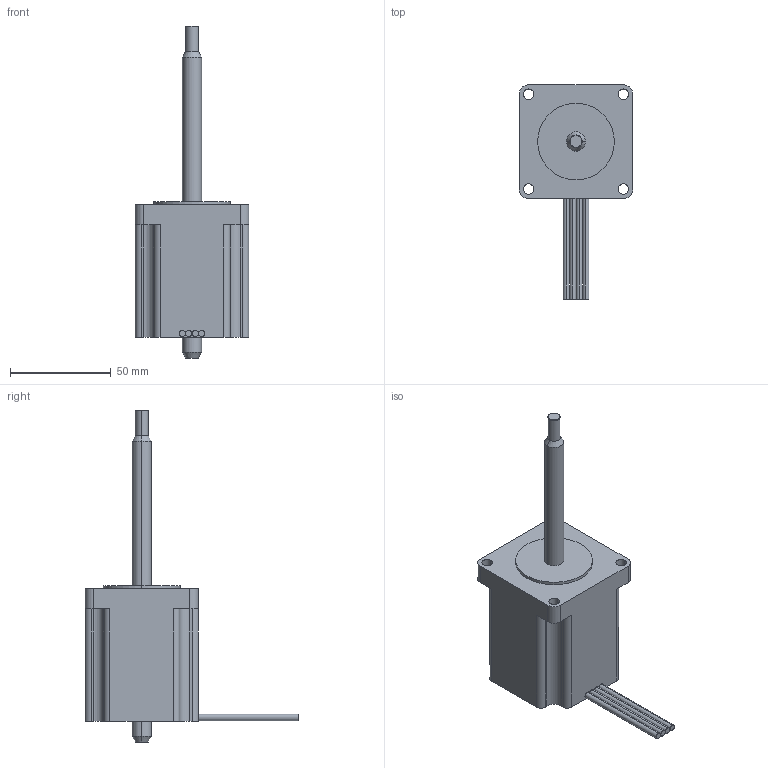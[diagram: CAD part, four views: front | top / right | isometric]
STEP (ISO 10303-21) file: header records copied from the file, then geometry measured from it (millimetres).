
FILE_DESCRIPTION (( 'STEP AP214' ), '1' );
FILE_NAME ('AMETEK-57L43-3.25-6.STEP', '2020-03-17T04:55:14', ( '' ), ( '' ), 'SwSTEP 2.0', 'SolidWorks 2019', '' );
FILE_SCHEMA (( 'AUTOMOTIVE_DESIGN' ));
Length unit declared in the file: inch
Products named in the file (3): AMETEK-57L43-3.25-6; 57000 Non-Captive; 57000 Non-Captive Screw
Assembly tree (2 placements, depth 2):
  AMETEK-57L43-3.25-6
    57000 Non-Captive
    57000 Non-Captive Screw
Bounding box: 56.39 x 106.39 x 165.1 mm (x, y, z)
Volume: 199059.4 mm3; surface area: 29549 mm2
Topology: 2 solids, 2 shells, 74 faces, 184 edges, 120 vertices
Faces by surface type: cylinder 42, plane 26, cone 6
Entity records: 3130 total; most frequent: DIRECTION 430, CARTESIAN_POINT 383, ORIENTED_EDGE 368, EDGE_CURVE 184, AXIS2_PLACEMENT_3D 167, VERTEX_POINT 120, VECTOR 96, LINE 96
